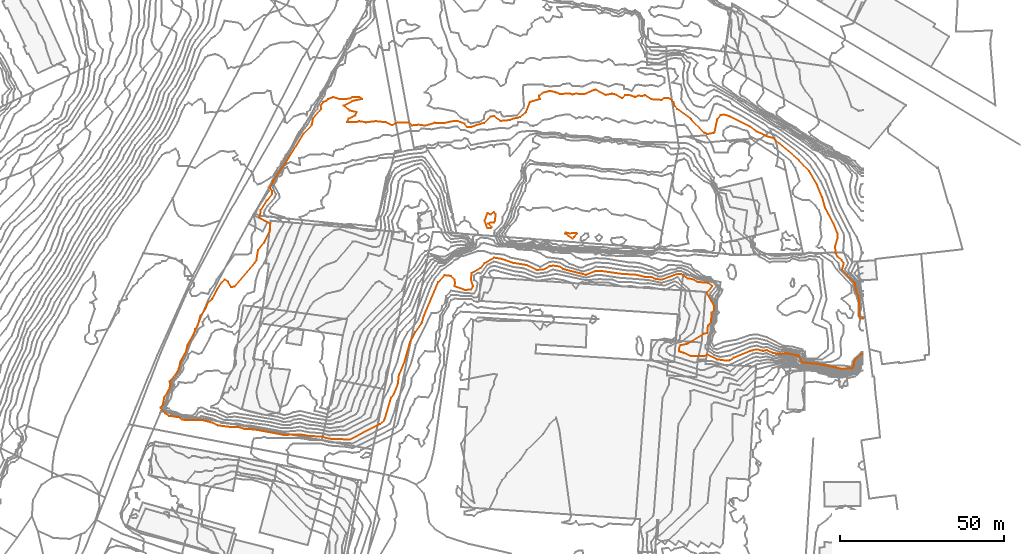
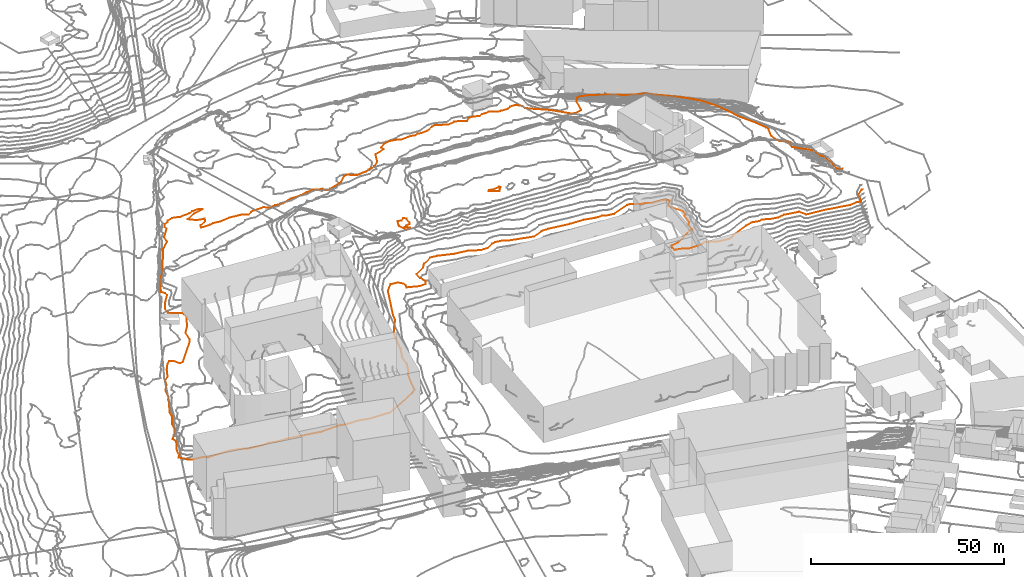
# Not in any storey, part 270 of 419: 3 proxies.
"""IFC2X3 model written with IfcOpenShell, lengths in metres."""

from ifc_helpers import new_model, entity, si_unit, frame, origin_with_axes, place, context, subcontext, project, element, save


model = new_model("IFC2X3")

# Units and contexts
model_context = context("Model", 3, precision=1e-05, world=origin_with_axes())
body_context = subcontext(model_context, "Body", "Model", "MODEL_VIEW")
ifc_project = project(units=[si_unit("AREAUNIT", "SQUARE_METRE"), si_unit("LENGTHUNIT", "METRE")], contexts=[model_context])

# Proxies
proxy_1_placement = place(None, frame((861.2587082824, 472.8976909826, 81.0), z_axis=(0.0, 0.0, 1.0), x_axis=(1.0, 0.0, 0.0)))
element("IfcBuildingElementProxy", 1, at=proxy_1_placement, Name="Contour 81.0 m", ObjectType="NOTDEFINED", context=body_context, shape_type="GeometricCurveSet", body=[
    entity("IfcGeometricCurveSet", [entity("IfcPolyline", [entity("IfcCartesianPoint", [2.1666454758, -2.0, 0.0]), entity("IfcCartesianPoint", [1.8333121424, -2.25, 0.0]), entity("IfcCartesianPoint", [0.8333121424, -2.2500476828, 0.0]), entity("IfcCartesianPoint", [0.0, 0.0, 0.0]), entity("IfcCartesianPoint", [0.8333121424, 2.1999694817, 0.0]), entity("IfcCartesianPoint", [1.8333121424, 1.8749761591, 0.0]), entity("IfcCartesianPoint", [2.8333121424, 2.6363573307, 0.0]), entity("IfcCartesianPoint", [3.37178271, 2.0, 0.0]), entity("IfcCartesianPoint", [3.1666454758, 0.0, 0.0]), entity("IfcCartesianPoint", [2.8333121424, -0.5714441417, 0.0]), entity("IfcCartesianPoint", [1.8333121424, -0.6153755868, 0.0]), entity("IfcCartesianPoint", [1.1189797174, -1.0, 0.0]), entity("IfcCartesianPoint", [2.1666454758, -2.0, 0.0])])]),
])
proxy_2_placement = place(None, frame((885.7073960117, 468.8976909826, 86.0), z_axis=(0.0, 0.0, 1.0), x_axis=(1.0, 0.0, 0.0)))
element("IfcBuildingElementProxy", 2, at=proxy_2_placement, Name="Contour 86.0 m", ObjectType="NOTDEFINED", context=body_context, shape_type="GeometricCurveSet", body=[
    entity("IfcGeometricCurveSet", [entity("IfcPolyline", [entity("IfcCartesianPoint", [2.7846244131, -1.0, 0.0]), entity("IfcCartesianPoint", [2.3846244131, -1.5333401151, 0.0]), entity("IfcCartesianPoint", [0.0, 0.0, 0.0]), entity("IfcCartesianPoint", [0.3846244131, 0.2777942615, 0.0]), entity("IfcCartesianPoint", [1.3846244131, 0.0476294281, 0.0]), entity("IfcCartesianPoint", [3.3846244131, 0.2142779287, 0.0]), entity("IfcCartesianPoint", [3.6573390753, 0.0, 0.0]), entity("IfcCartesianPoint", [2.7846244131, -1.0, 0.0])])]),
])
proxy_3_placement = place(None, frame((762.5086894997, 415.8976909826, 77.0), z_axis=(0.0, 0.0, 1.0), x_axis=(1.0, 0.0, 0.0)))
element("IfcBuildingElementProxy", 3, at=proxy_3_placement, Name="Contour 77.0 m", ObjectType="NOTDEFINED", context=body_context, shape_type="GeometricCurveSet", body=[
    entity("IfcGeometricCurveSet", [entity("IfcPolyline", [entity("IfcCartesianPoint", [214.0833309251, 16.2933349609, 0.0]), entity("IfcCartesianPoint", [213.5833309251, 16.2933349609, 0.0]), entity("IfcCartesianPoint", [211.9384334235, 15.0, 0.0]), entity("IfcCartesianPoint", [211.2766074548, 14.0, 0.0]), entity("IfcCartesianPoint", [211.2938558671, 13.0, 0.0]), entity("IfcCartesianPoint", [210.9019152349, 12.0, 0.0]), entity("IfcCartesianPoint", [210.5833309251, 11.8239607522, 0.0]), entity("IfcCartesianPoint", [209.5833309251, 12.0413777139, 0.0]), entity("IfcCartesianPoint", [207.5833309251, 11.8085801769, 0.0]), entity("IfcCartesianPoint", [200.5833309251, 13.2453995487, 0.0]), entity("IfcCartesianPoint", [195.5833309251, 13.7879865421, 0.0]), entity("IfcCartesianPoint", [194.5833309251, 15.7653642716, 0.0]), entity("IfcCartesianPoint", [190.5833309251, 16.5508029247, 0.0]), entity("IfcCartesianPoint", [188.5833309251, 16.2994015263, 0.0]), entity("IfcCartesianPoint", [186.5833309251, 16.6442284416, 0.0]), entity("IfcCartesianPoint", [184.5833309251, 17.5142850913, 0.0]), entity("IfcCartesianPoint", [183.5833309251, 17.2761905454, 0.0]), entity("IfcCartesianPoint", [181.5833309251, 17.7528074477, 0.0]), entity("IfcCartesianPoint", [179.5833309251, 17.2750004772, 0.0]), entity("IfcCartesianPoint", [174.5833309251, 15.1710502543, 0.0]), entity("IfcCartesianPoint", [173.5833309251, 14.44118076, 0.0]), entity("IfcCartesianPoint", [172.5833309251, 14.2608690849, 0.0]), entity("IfcCartesianPoint", [169.5833309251, 14.6792479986, 0.0]), entity("IfcCartesianPoint", [166.5833309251, 16.1785694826, 0.0]), entity("IfcCartesianPoint", [165.5833309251, 15.6428610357, 0.0]), entity("IfcCartesianPoint", [161.5833309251, 15.6349181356, 0.0]), entity("IfcCartesianPoint", [159.5833309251, 16.6538529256, 0.0]), entity("IfcCartesianPoint", [158.0833142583, 17.0, 0.0]), entity("IfcCartesianPoint", [157.9166218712, 18.0, 0.0]), entity("IfcCartesianPoint", [158.372802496, 19.0, 0.0]), entity("IfcCartesianPoint", [160.5833309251, 19.4615399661, 0.0]), entity("IfcCartesianPoint", [165.5833309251, 22.5555649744, 0.0]), entity("IfcCartesianPoint", [166.5833309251, 22.714332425, 0.0]), entity("IfcCartesianPoint", [166.7651498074, 25.0, 0.0]), entity("IfcCartesianPoint", [167.6682355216, 26.0, 0.0]), entity("IfcCartesianPoint", [167.949001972, 29.0, 0.0]), entity("IfcCartesianPoint", [168.5833309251, 29.6640619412, 0.0]), entity("IfcCartesianPoint", [168.6942216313, 31.0, 0.0]), entity("IfcCartesianPoint", [166.4491837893, 35.0, 0.0]), entity("IfcCartesianPoint", [168.0976197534, 37.0, 0.0]), entity("IfcCartesianPoint", [166.8500009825, 38.0, 0.0]), entity("IfcCartesianPoint", [163.5833309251, 38.2452838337, 0.0]), entity("IfcCartesianPoint", [162.4220334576, 39.0, 0.0]), entity("IfcCartesianPoint", [160.5833309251, 39.3802774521, 0.0]), entity("IfcCartesianPoint", [158.5833309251, 40.6206887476, 0.0]), entity("IfcCartesianPoint", [157.5833309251, 40.7394967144, 0.0]), entity("IfcCartesianPoint", [152.5833309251, 38.9439274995, 0.0]), entity("IfcCartesianPoint", [150.5833309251, 39.2395851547, 0.0]), entity("IfcCartesianPoint", [149.5833309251, 39.7234027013, 0.0]), entity("IfcCartesianPoint", [147.5833309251, 39.7959205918, 0.0]), entity("IfcCartesianPoint", [144.5833309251, 40.5119027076, 0.0]), entity("IfcCartesianPoint", [140.5833309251, 40.7000009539, 0.0]), entity("IfcCartesianPoint", [134.5833309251, 41.582276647, 0.0]), entity("IfcCartesianPoint", [132.5833309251, 41.6103878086, 0.0]), entity("IfcCartesianPoint", [129.5833309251, 40.4100036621, 0.0]), entity("IfcCartesianPoint", [122.5833309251, 42.2352993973, 0.0]), entity("IfcCartesianPoint", [121.5833309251, 42.9565236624, 0.0]), entity("IfcCartesianPoint", [119.5833309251, 43.25, 0.0]), entity("IfcCartesianPoint", [118.5833309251, 43.0405390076, 0.0]), entity("IfcCartesianPoint", [116.5833352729, 42.0, 0.0]), entity("IfcCartesianPoint", [114.5833309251, 41.9629643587, 0.0]), entity("IfcCartesianPoint", [111.5833309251, 43.4084525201, 0.0]), entity("IfcCartesianPoint", [107.5833309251, 44.0526326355, 0.0]), entity("IfcCartesianPoint", [103.5833309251, 45.3636363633, 0.0]), entity("IfcCartesianPoint", [101.5833309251, 45.6629176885, 0.0]), entity("IfcCartesianPoint", [98.7217881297, 44.0, 0.0]), entity("IfcCartesianPoint", [97.5833309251, 42.5714305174, 0.0]), entity("IfcCartesianPoint", [94.7572473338, 41.0, 0.0]), entity("IfcCartesianPoint", [94.6609142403, 39.0, 0.0]), entity("IfcCartesianPoint", [95.186774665, 37.0, 0.0]), entity("IfcCartesianPoint", [94.5833309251, 35.8932031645, 0.0]), entity("IfcCartesianPoint", [92.5833309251, 35.8737889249, 0.0]), entity("IfcCartesianPoint", [89.5306887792, 37.0, 0.0]), entity("IfcCartesianPoint", [89.8055468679, 38.0, 0.0]), entity("IfcCartesianPoint", [89.5833309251, 38.9999833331, 0.0]), entity("IfcCartesianPoint", [88.5833309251, 40.0833492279, 0.0]), entity("IfcCartesianPoint", [86.5833309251, 40.333333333, 0.0]), entity("IfcCartesianPoint", [84.5833309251, 38.1739144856, 0.0]), entity("IfcCartesianPoint", [80.262817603, 28.0, 0.0]), entity("IfcCartesianPoint", [79.5833309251, 25.7353020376, 0.0]), entity("IfcCartesianPoint", [77.6298347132, 23.0, 0.0]), entity("IfcCartesianPoint", [76.0251967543, 20.0, 0.0]), entity("IfcCartesianPoint", [74.3659425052, 14.0, 0.0]), entity("IfcCartesianPoint", [72.6722209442, 10.0, 0.0]), entity("IfcCartesianPoint", [72.285460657, 7.0, 0.0]), entity("IfcCartesianPoint", [71.0119049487, 4.0, 0.0]), entity("IfcCartesianPoint", [70.2499975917, 3.0, 0.0]), entity("IfcCartesianPoint", [68.1414650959, -4.0, 0.0]), entity("IfcCartesianPoint", [66.9381743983, -5.0, 0.0]), entity("IfcCartesianPoint", [57.5833309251, -9.7333299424, 0.0]), entity("IfcCartesianPoint", [51.5833309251, -9.4947357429, 0.0]), entity("IfcCartesianPoint", [48.5833309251, -8.7708318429, 0.0]), entity("IfcCartesianPoint", [45.5833309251, -8.7142845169, 0.0]), entity("IfcCartesianPoint", [42.5833309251, -8.1428597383, 0.0]), entity("IfcCartesianPoint", [37.5833309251, -8.336631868, 0.0]), entity("IfcCartesianPoint", [28.5833309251, -6.6481488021, 0.0]), entity("IfcCartesianPoint", [25.5833309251, -6.4895850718, 0.0]), entity("IfcCartesianPoint", [23.5833309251, -5.8787857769, 0.0]), entity("IfcCartesianPoint", [21.5833309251, -5.9514536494, 0.0]), entity("IfcCartesianPoint", [17.5833309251, -5.4390252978, 0.0]), entity("IfcCartesianPoint", [15.5833309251, -4.5312447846, 0.0]), entity("IfcCartesianPoint", [12.5833309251, -3.7765972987, 0.0]), entity("IfcCartesianPoint", [6.5833309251, -3.7105245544, 0.0]), entity("IfcCartesianPoint", [5.5833309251, -2.9482189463, 0.0]), entity("IfcCartesianPoint", [2.5833309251, -2.5094288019, 0.0]), entity("IfcCartesianPoint", [1.5833309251, -1.8431385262, 0.0]), entity("IfcCartesianPoint", [0.0, 0.0, 0.0]), entity("IfcCartesianPoint", [0.7633297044, 1.0, 0.0]), entity("IfcCartesianPoint", [1.172803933, 3.0, 0.0]), entity("IfcCartesianPoint", [2.8050293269, 6.0, 0.0]), entity("IfcCartesianPoint", [3.043506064, 7.0, 0.0]), entity("IfcCartesianPoint", [2.783330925, 8.0, 0.0]), entity("IfcCartesianPoint", [4.5833309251, 10.0740756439, 0.0]), entity("IfcCartesianPoint", [5.5833309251, 11.7058869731, 0.0]), entity("IfcCartesianPoint", [6.0874640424, 14.0, 0.0]), entity("IfcCartesianPoint", [7.7738079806, 17.0, 0.0]), entity("IfcCartesianPoint", [8.2163583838, 19.0, 0.0]), entity("IfcCartesianPoint", [10.3981450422, 23.0, 0.0]), entity("IfcCartesianPoint", [10.6383747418, 24.0, 0.0]), entity("IfcCartesianPoint", [11.3950926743, 25.0, 0.0]), entity("IfcCartesianPoint", [12.1706323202, 28.0, 0.0]), entity("IfcCartesianPoint", [13.6845989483, 30.0, 0.0]), entity("IfcCartesianPoint", [14.4090173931, 32.0, 0.0]), entity("IfcCartesianPoint", [15.744039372, 33.0, 0.0]), entity("IfcCartesianPoint", [17.2134703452, 36.0, 0.0]), entity("IfcCartesianPoint", [18.5833309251, 38.0487727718, 0.0]), entity("IfcCartesianPoint", [19.5833309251, 39.0303093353, 0.0]), entity("IfcCartesianPoint", [20.5833309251, 38.3749761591, 0.0]), entity("IfcCartesianPoint", [21.5833309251, 36.6667090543, 0.0]), entity("IfcCartesianPoint", [22.5833309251, 36.9318213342, 0.0]), entity("IfcCartesianPoint", [28.680101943, 44.0, 0.0]), entity("IfcCartesianPoint", [29.2277708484, 45.0, 0.0]), entity("IfcCartesianPoint", [29.7412172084, 48.0, 0.0]), entity("IfcCartesianPoint", [31.5833309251, 50.3333502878, 0.0]), entity("IfcCartesianPoint", [33.4633358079, 54.0, 0.0]), entity("IfcCartesianPoint", [33.3833309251, 56.0, 0.0]), entity("IfcCartesianPoint", [30.5833309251, 57.5254228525, 0.0]), entity("IfcCartesianPoint", [30.2499975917, 58.0, 0.0]), entity("IfcCartesianPoint", [30.5833309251, 60.1136426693, 0.0]), entity("IfcCartesianPoint", [32.3781997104, 63.0, 0.0]), entity("IfcCartesianPoint", [34.0448729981, 65.0, 0.0]), entity("IfcCartesianPoint", [33.9960284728, 66.0, 0.0]), entity("IfcCartesianPoint", [33.4778036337, 67.0, 0.0]), entity("IfcCartesianPoint", [34.358840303, 69.0, 0.0]), entity("IfcCartesianPoint", [36.8564236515, 73.0, 0.0]), entity("IfcCartesianPoint", [37.7959755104, 74.0, 0.0]), entity("IfcCartesianPoint", [43.5833309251, 83.5156283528, 0.0]), entity("IfcCartesianPoint", [46.1175797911, 86.0, 0.0]), entity("IfcCartesianPoint", [46.4414887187, 88.0, 0.0]), entity("IfcCartesianPoint", [48.9098653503, 91.0, 0.0]), entity("IfcCartesianPoint", [48.8500009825, 92.0, 0.0]), entity("IfcCartesianPoint", [49.5833309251, 93.1044774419, 0.0]), entity("IfcCartesianPoint", [50.5833309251, 93.5000099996, 0.0]), entity("IfcCartesianPoint", [51.000013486, 94.0, 0.0]), entity("IfcCartesianPoint", [52.5833309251, 94.5666692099, 0.0]), entity("IfcCartesianPoint", [54.5833309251, 93.9473578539, 0.0]), entity("IfcCartesianPoint", [57.5833309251, 94.0909280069, 0.0]), entity("IfcCartesianPoint", [58.5833309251, 94.5999999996, 0.0]), entity("IfcCartesianPoint", [60.5833309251, 94.6667090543, 0.0]), entity("IfcCartesianPoint", [61.3833004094, 94.0, 0.0]), entity("IfcCartesianPoint", [58.5833309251, 93.4375089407, 0.0]), entity("IfcCartesianPoint", [55.8333786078, 92.0, 0.0]), entity("IfcCartesianPoint", [57.5833309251, 90.5000099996, 0.0]), entity("IfcCartesianPoint", [59.7500187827, 90.0, 0.0]), entity("IfcCartesianPoint", [59.3332832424, 89.0, 0.0]), entity("IfcCartesianPoint", [57.2976633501, 88.0, 0.0]), entity("IfcCartesianPoint", [56.9166218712, 87.0, 0.0]), entity("IfcCartesianPoint", [59.5833309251, 86.9333197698, 0.0]), entity("IfcCartesianPoint", [60.5833309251, 87.2353020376, 0.0]), entity("IfcCartesianPoint", [62.5833309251, 86.9000152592, 0.0]), entity("IfcCartesianPoint", [65.5833309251, 87.2381021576, 0.0]), entity("IfcCartesianPoint", [68.5833309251, 86.9166507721, 0.0]), entity("IfcCartesianPoint", [70.5833309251, 86.0000124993, 0.0]), entity("IfcCartesianPoint", [71.5833309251, 86.642833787, 0.0]), entity("IfcCartesianPoint", [72.5833309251, 86.882371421, 0.0]), entity("IfcCartesianPoint", [75.5833309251, 86.882371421, 0.0]), entity("IfcCartesianPoint", [76.5833309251, 85.9423096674, 0.0]), entity("IfcCartesianPoint", [78.5833309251, 86.1627898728, 0.0]), entity("IfcCartesianPoint", [80.5833309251, 85.8947343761, 0.0]), entity("IfcCartesianPoint", [83.5833309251, 86.75, 0.0]), entity("IfcCartesianPoint", [86.5833309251, 86.7051263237, 0.0]), entity("IfcCartesianPoint", [88.5833309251, 87.1927750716, 0.0]), entity("IfcCartesianPoint", [90.5833309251, 87.267240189, 0.0]), entity("IfcCartesianPoint", [92.5833309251, 86.4671519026, 0.0]), entity("IfcCartesianPoint", [93.5833309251, 85.3918942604, 0.0]), entity("IfcCartesianPoint", [94.5833309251, 85.4863010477, 0.0]), entity("IfcCartesianPoint", [98.5833309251, 86.7478971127, 0.0]), entity("IfcCartesianPoint", [100.5833309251, 88.6415040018, 0.0]), entity("IfcCartesianPoint", [101.5833309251, 88.7962955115, 0.0]), entity("IfcCartesianPoint", [103.5833309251, 87.3199971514, 0.0]), entity("IfcCartesianPoint", [106.5833309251, 87.5944044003, 0.0]), entity("IfcCartesianPoint", [107.5833309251, 88.1126781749, 0.0]), entity("IfcCartesianPoint", [108.5833309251, 88.1304359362, 0.0]), entity("IfcCartesianPoint", [109.5833309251, 88.5700941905, 0.0]), entity("IfcCartesianPoint", [111.3247084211, 90.0, 0.0]), entity("IfcCartesianPoint", [112.5833309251, 93.142833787, 0.0]), entity("IfcCartesianPoint", [115.5832309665, 94.0, 0.0]), entity("IfcCartesianPoint", [115.2916629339, 95.0, 0.0]), entity("IfcCartesianPoint", [116.7371545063, 96.0, 0.0]), entity("IfcCartesianPoint", [118.5833309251, 96.4545475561, 0.0]), entity("IfcCartesianPoint", [120.5833309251, 96.0377296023, 0.0]), entity("IfcCartesianPoint", [121.5833309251, 95.5227320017, 0.0]), entity("IfcCartesianPoint", [124.5833309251, 95.6571409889, 0.0]), entity("IfcCartesianPoint", [125.5833309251, 95.4150975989, 0.0]), entity("IfcCartesianPoint", [126.5833309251, 95.6734655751, 0.0]), entity("IfcCartesianPoint", [127.5833309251, 95.4634164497, 0.0]), entity("IfcCartesianPoint", [129.5833309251, 95.6111134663, 0.0]), entity("IfcCartesianPoint", [131.5833309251, 96.6274524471, 0.0]), entity("IfcCartesianPoint", [132.5833309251, 96.8124988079, 0.0]), entity("IfcCartesianPoint", [135.5833309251, 95.2388093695, 0.0]), entity("IfcCartesianPoint", [137.5833309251, 95.5851081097, 0.0]), entity("IfcCartesianPoint", [138.5833309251, 95.3947343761, 0.0]), entity("IfcCartesianPoint", [140.5833309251, 94.2307726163, 0.0]), entity("IfcCartesianPoint", [141.5833309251, 95.2079194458, 0.0]), entity("IfcCartesianPoint", [142.5833309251, 95.2566386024, 0.0]), entity("IfcCartesianPoint", [144.5833309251, 94.6375002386, 0.0]), entity("IfcCartesianPoint", [145.5833309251, 95.0531945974, 0.0]), entity("IfcCartesianPoint", [146.5833309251, 94.9090921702, 0.0]), entity("IfcCartesianPoint", [147.5833309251, 95.1313106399, 0.0]), entity("IfcCartesianPoint", [149.5833309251, 93.9322022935, 0.0]), entity("IfcCartesianPoint", [150.5833309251, 93.8214305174, 0.0]), entity("IfcCartesianPoint", [152.5833309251, 93.7333374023, 0.0]), entity("IfcCartesianPoint", [153.5833309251, 94.3214283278, 0.0]), entity("IfcCartesianPoint", [154.5833309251, 94.3492076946, 0.0]), entity("IfcCartesianPoint", [155.3981488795, 94.0, 0.0]), entity("IfcCartesianPoint", [156.3425956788, 93.0, 0.0]), entity("IfcCartesianPoint", [156.5833309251, 91.8421137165, 0.0]), entity("IfcCartesianPoint", [157.4254446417, 91.0, 0.0]), entity("IfcCartesianPoint", [161.5833309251, 87.9189211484, 0.0]), entity("IfcCartesianPoint", [165.5833309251, 83.7666700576, 0.0]), entity("IfcCartesianPoint", [166.5833309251, 83.2999923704, 0.0]), entity("IfcCartesianPoint", [168.5833309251, 83.7200012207, 0.0]), entity("IfcCartesianPoint", [168.783330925, 84.0, 0.0]), entity("IfcCartesianPoint", [169.5833309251, 87.75, 0.0]), entity("IfcCartesianPoint", [170.5833309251, 89.0500095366, 0.0]), entity("IfcCartesianPoint", [171.5833309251, 89.2727209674, 0.0]), entity("IfcCartesianPoint", [173.5833309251, 88.6153880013, 0.0]), entity("IfcCartesianPoint", [179.5833309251, 85.562499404, 0.0]), entity("IfcCartesianPoint", [181.5833309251, 84.1428519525, 0.0]), entity("IfcCartesianPoint", [184.5833309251, 82.6744202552, 0.0]), entity("IfcCartesianPoint", [187.0259534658, 82.0, 0.0]), entity("IfcCartesianPoint", [188.5833309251, 80.372880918, 0.0]), entity("IfcCartesianPoint", [194.5833309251, 75.2978702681, 0.0]), entity("IfcCartesianPoint", [197.6499992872, 72.0, 0.0]), entity("IfcCartesianPoint", [199.99602953, 68.0, 0.0]), entity("IfcCartesianPoint", [201.5833309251, 64.058834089, 0.0]), entity("IfcCartesianPoint", [202.4608863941, 61.0, 0.0]), entity("IfcCartesianPoint", [205.039475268, 56.0, 0.0]), entity("IfcCartesianPoint", [206.2499975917, 53.0, 0.0]), entity("IfcCartesianPoint", [206.3201751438, 52.0, 0.0]), entity("IfcCartesianPoint", [205.4950982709, 49.0, 0.0]), entity("IfcCartesianPoint", [205.7261828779, 47.0, 0.0]), entity("IfcCartesianPoint", [206.1882683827, 46.0, 0.0]), entity("IfcCartesianPoint", [207.4608863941, 45.0, 0.0]), entity("IfcCartesianPoint", [208.1388864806, 44.0, 0.0]), entity("IfcCartesianPoint", [207.6341763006, 42.0, 0.0]), entity("IfcCartesianPoint", [211.5374144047, 38.0, 0.0]), entity("IfcCartesianPoint", [211.9965951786, 35.0, 0.0]), entity("IfcCartesianPoint", [212.6783531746, 34.0, 0.0]), entity("IfcCartesianPoint", [212.9715159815, 30.0, 0.0]), entity("IfcCartesianPoint", [212.7996572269, 28.0, 0.0]), entity("IfcCartesianPoint", [213.5833309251, 27.0857144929, 0.0]), entity("IfcCartesianPoint", [214.0833309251, 27.0857144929, 0.0])])]),
])

save(model, "model.ifc")
